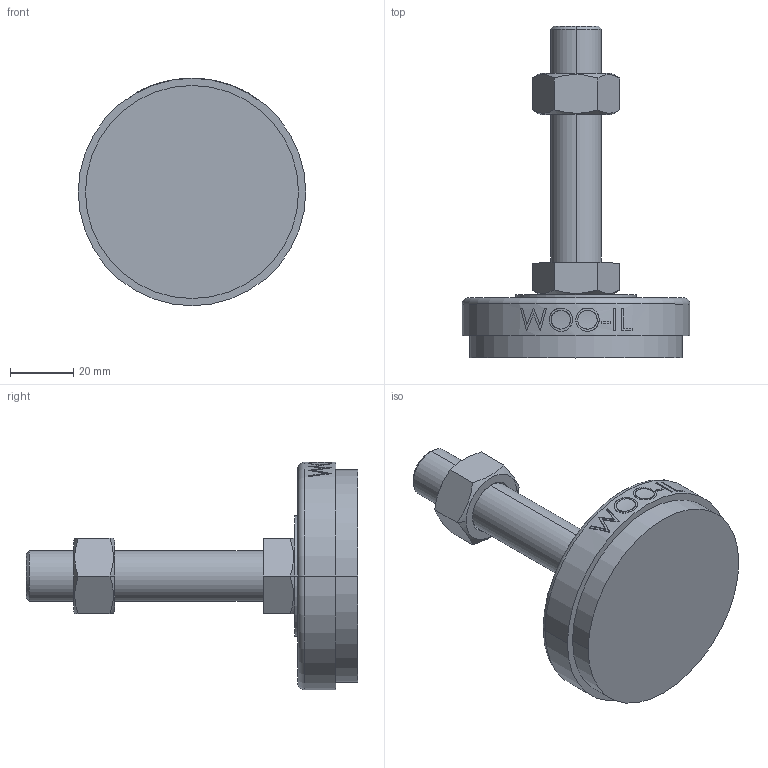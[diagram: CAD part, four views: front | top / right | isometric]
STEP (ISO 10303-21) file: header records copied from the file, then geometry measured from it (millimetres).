
FILE_DESCRIPTION (( 'STEP AP214' ), '1' );
FILE_NAME ('NS72-M16-75.step', '2021-01-11T05:48:08', ( '' ), ( '' ), 'SwSTEP 2.0', 'SolidWorks 2019', '' );
FILE_SCHEMA (( 'AUTOMOTIVE_DESIGN' ));
Length unit declared in the file: millimetre
Products named in the file (2): NS72-M16-75
Bounding box: 72 x 105 x 72 mm (x, y, z)
Volume: 98542.9 mm3; surface area: 20026.5 mm2
Topology: 3 solids, 3 shells, 96 faces, 223 edges, 144 vertices
Faces by surface type: plane 48, cylinder 18, bspline 16, cone 12, torus 2
Entity records: 4262 total; most frequent: CARTESIAN_POINT 2137, ORIENTED_EDGE 446, DIRECTION 381, EDGE_CURVE 223, VERTEX_POINT 144, AXIS2_PLACEMENT_3D 142, EDGE_LOOP 109, LINE 97
